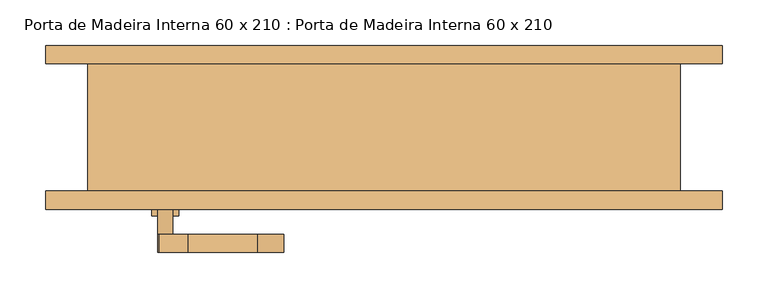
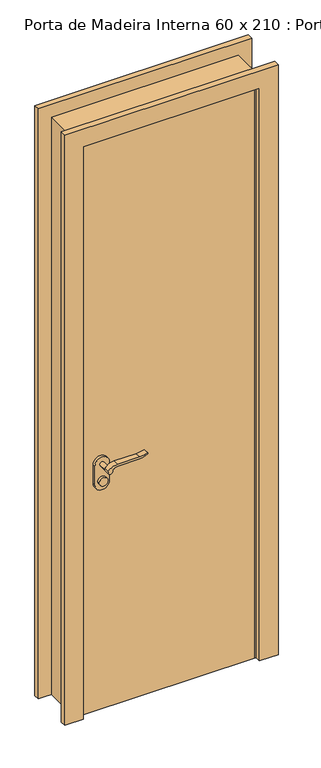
"""IFC4 building model written with IfcOpenShell, lengths in millimetres: door geometry, Porta de Madeira Interna 60 x 210 : Porta de Madeira Interna 60 x 210."""

import ifcopenshell
import ifcopenshell.guid

model = None  # the IFC model being written
_history = None  # IfcOwnerHistory: only IFC2X3 demands one
_inside = {}  # id of a spatial element -> (the spatial element, [elements in it])
_under = {}  # id of a project, library or spatial element -> (it, [spatial elements below it])
_declared = {}  # id of a project -> (the project, [libraries it declares])
_typed = {}  # id of a type object -> (the type object, [elements of that type])
_made_of = {}  # id of a material, layer set ... -> (it, [elements and type objects made of it])


def new_model(schema):
    """Start an empty IFC model of exactly this schema.

    Asked for "IFC4X3", IfcOpenShell would pick the latest addendum, in which some entities
    have other attributes; the version numbers below select the first issue.
    IFC2X3 requires an IfcOwnerHistory on every rooted entity: one is made here for all.
    """
    global model, _history
    if schema == "IFC4X3":
        model = ifcopenshell.file(schema_version=(4, 3, 0, 0))
    else:
        model = ifcopenshell.file(schema=schema)
    _inside.clear()
    _under.clear()
    _declared.clear()
    _typed.clear()
    _made_of.clear()
    _history = None
    if model.schema == "IFC2X3":
        org = make("IfcOrganization", Name="unknown")
        user = make(
            "IfcPersonAndOrganization",
            ThePerson=make("IfcPerson", FamilyName="unknown"),
            TheOrganization=org,
        )
        app = make(
            "IfcApplication",
            ApplicationDeveloper=org,
            Version="unknown",
            ApplicationFullName="unknown",
            ApplicationIdentifier="unknown",
        )
        _history = make(
            "IfcOwnerHistory",
            OwningUser=user,
            OwningApplication=app,
            ChangeAction="ADDED",
            CreationDate=0,
        )
    return model


def make(cls, **values):
    """One entity of the class cls with the attributes given. An attribute that is None is left unset."""
    return model.create_entity(
        cls, **{name: value for name, value in values.items() if value is not None}
    )


def rooted(cls, **values):
    """An entity with a GlobalId (a new one), such as an element, a storey or a relation."""
    return make(cls, GlobalId=ifcopenshell.guid.new(), OwnerHistory=_history, **values)


def si_unit(unit_type, name, prefix=None):
    """IfcSIUnit, for example si_unit("LENGTHUNIT", "METRE", prefix="MILLI")."""
    return make("IfcSIUnit", UnitType=unit_type, Prefix=prefix, Name=name)


def assignment(units):
    """IfcUnitAssignment: the units of a project."""
    return None if units is None else make("IfcUnitAssignment", Units=units)


def point(xyz):
    """IfcCartesianPoint."""
    return None if xyz is None else make("IfcCartesianPoint", Coordinates=xyz)


def direction(xyz):
    """IfcDirection."""
    return None if xyz is None else make("IfcDirection", DirectionRatios=xyz)


def frame(location, z_axis=None, x_axis=None):
    """IfcAxis2Placement3D, a coordinate frame: its origin and axes. An axis left out is left unset."""
    return make(
        "IfcAxis2Placement3D",
        Location=point(location),
        Axis=direction(z_axis),
        RefDirection=direction(x_axis),
    )


def frame_2d(location, x_axis=None):
    """IfcAxis2Placement2D, a coordinate frame in the plane: its origin and x axis."""
    return make(
        "IfcAxis2Placement2D", Location=point(location), RefDirection=direction(x_axis)
    )


def origin():
    """The frame at (0, 0, 0) with its axes left unset."""
    return frame((0.0, 0.0, 0.0))


def origin_with_axes():
    """The frame at (0, 0, 0) with the z axis (0, 0, 1) and the x axis (1, 0, 0) written out."""
    return frame((0.0, 0.0, 0.0), z_axis=(0.0, 0.0, 1.0), x_axis=(1.0, 0.0, 0.0))


def place(relative_to, where):
    """IfcLocalPlacement: puts the frame where relative to a parent placement (None: the world)."""
    return make(
        "IfcLocalPlacement", PlacementRelTo=relative_to, RelativePlacement=where
    )


def context(
    kind, dimensions, precision=None, world=None, true_north=None, identifier=None
):
    """IfcGeometricRepresentationContext, for example the 3D "Model" context."""
    return make(
        "IfcGeometricRepresentationContext",
        ContextIdentifier=identifier,
        ContextType=kind,
        CoordinateSpaceDimension=dimensions,
        Precision=precision,
        WorldCoordinateSystem=world,
        TrueNorth=true_north,
    )


def project(units=None, contexts=None):
    """IfcProject with its units and contexts."""
    return rooted(
        "IfcProject",
        Name="project",
        RepresentationContexts=contexts,
        UnitsInContext=assignment(units),
    )


def spatial(cls, under=None, at=None, **own):
    """A site, building, storey or space (cls), placed at a placement, below another one or the project."""
    s = rooted(cls, ObjectPlacement=at, **own)
    if under is not None:
        _under.setdefault(under.id(), (under, []))[1].append(s)
    return s


def polyline(points):
    """IfcPolyline through the points."""
    return make("IfcPolyline", Points=[point(p) for p in points])


def circle_curve(where, radius):
    """IfcCircle in the frame where."""
    return make("IfcCircle", Position=where, Radius=radius)


def trimmed(basis, trim1, trim2, sense, master):
    """IfcTrimmedCurve: the piece of a basis curve between two trims."""
    return make(
        "IfcTrimmedCurve",
        BasisCurve=basis,
        Trim1=trim1,
        Trim2=trim2,
        SenseAgreement=sense,
        MasterRepresentation=master,
    )


def segment(curve, same_sense, transition):
    """IfcCompositeCurveSegment."""
    return make(
        "IfcCompositeCurveSegment",
        Transition=transition,
        SameSense=same_sense,
        ParentCurve=curve,
    )


def composite_curve(segments, self_intersect=None):
    """IfcCompositeCurve: segments joined end to end."""
    return make("IfcCompositeCurve", Segments=segments, SelfIntersect=self_intersect)


def outline(outer, holes=None, kind="AREA"):
    """IfcArbitraryClosedProfileDef: a profile drawn as a closed curve; with holes, ...WithVoids."""
    if holes is None:
        return make("IfcArbitraryClosedProfileDef", ProfileType=kind, OuterCurve=outer)
    return make(
        "IfcArbitraryProfileDefWithVoids",
        ProfileType=kind,
        OuterCurve=outer,
        InnerCurves=holes,
    )


def extrude(swept, where, along, depth):
    """IfcExtrudedAreaSolid: the profile swept, set in the frame where, extruded along a direction by depth."""
    return make(
        "IfcExtrudedAreaSolid",
        SweptArea=swept,
        Position=where,
        ExtrudedDirection=direction(along),
        Depth=depth,
    )


def faces_of(points, faces, orient=None, outer=None):
    """IfcFace entities. A face is a list of loops; a loop is a list of indices into points, from 0.

    orient and outer hold one flag for each loop. By default every Orientation is true, the
    first loop of a face is its IfcFaceOuterBound and the others are IfcFaceBound.
    """
    made = []
    for i, loops in enumerate(faces):
        bounds = []
        for j, loop in enumerate(loops):
            is_outer = j == 0 if outer is None else outer[i][j]
            bounds.append(
                make(
                    "IfcFaceOuterBound" if is_outer else "IfcFaceBound",
                    Bound=make("IfcPolyLoop", Polygon=[points[k] for k in loop]),
                    Orientation=True if orient is None else orient[i][j],
                )
            )
        made.append(make("IfcFace", Bounds=bounds))
    return made


def faceted_brep(points, faces, orient=None, outer=None, voids=None):
    """IfcFacetedBrep: a solid bounded by flat faces; with voids (closed shells), ...WithVoids."""
    shared = [point(p) for p in points]
    hull = make("IfcClosedShell", CfsFaces=faces_of(shared, faces, orient, outer))
    if voids is None:
        return make("IfcFacetedBrep", Outer=hull)
    return make(
        "IfcFacetedBrepWithVoids",
        Outer=hull,
        Voids=[
            make(cls, CfsFaces=faces_of(shared, fs, o, b)) for cls, fs, o, b in voids
        ],
    )


def shape(context_of_items, identifier, shape_type, items):
    """IfcShapeRepresentation: the items that make up one representation, for example the "Body"."""
    return make(
        "IfcShapeRepresentation",
        ContextOfItems=context_of_items,
        RepresentationIdentifier=identifier,
        RepresentationType=shape_type,
        Items=items,
    )


def source(mapping_origin, context_of_items, identifier, shape_type, items):
    """IfcRepresentationMap: a shape defined once, which mapped items show again and again."""
    return make(
        "IfcRepresentationMap",
        MappingOrigin=mapping_origin,
        MappedRepresentation=shape(context_of_items, identifier, shape_type, items),
    )


def transform(
    local_origin,
    x_axis=None,
    y_axis=None,
    z_axis=None,
    scale=None,
    scale2=None,
    scale3=None,
    uniform=True,
):
    """IfcCartesianTransformationOperator3D, or its non-uniform kind. x_axis, y_axis, z_axis: its Axis1, 2, 3."""
    if uniform:
        return make(
            "IfcCartesianTransformationOperator3D",
            Axis1=direction(x_axis),
            Axis2=direction(y_axis),
            LocalOrigin=point(local_origin),
            Scale=scale,
            Axis3=direction(z_axis),
        )
    return make(
        "IfcCartesianTransformationOperator3DnonUniform",
        Axis1=direction(x_axis),
        Axis2=direction(y_axis),
        LocalOrigin=point(local_origin),
        Scale=scale,
        Axis3=direction(z_axis),
        Scale2=scale2,
        Scale3=scale3,
    )


def mapped(mapping_source, mapping_target):
    """IfcMappedItem: shows the shape of a source again, moved by a transform."""
    return make(
        "IfcMappedItem", MappingSource=mapping_source, MappingTarget=mapping_target
    )


def made_of(thing, what):
    """Note that an element or type object is made of a material, layer set ...; save() writes the relation."""
    if what is not None:
        _made_of.setdefault(what.id(), (what, []))[1].append(thing)
    return thing


def element(
    cls,
    number,
    at=None,
    inside=None,
    cuts=None,
    type_object=None,
    material=None,
    context=None,
    identifier="Body",
    shape_type=None,
    held_by="IfcProductDefinitionShape",
    body=None,
    shapes=None,
    **own,
):
    """One element of the class cls, such as IfcWall. Its Tag is "e" and its number.

    at: its placement. inside: the storey or other place that contains it. cuts: it is an
    opening in that element (IfcRelVoidsElement). A single representation is given by context,
    identifier, shape_type and body (its items); several are given by shapes. held_by: the class
    of the entity that holds the representations. save() writes the other relations.
    """
    e = rooted(cls, Tag="e%d" % number, ObjectPlacement=at, **own)
    if body is not None:
        shapes = [shape(context, identifier, shape_type, body)]
    if shapes is not None:
        e.Representation = make(held_by, Representations=shapes)
    if inside is not None:
        _inside.setdefault(inside.id(), (inside, []))[1].append(e)
    if cuts is not None:
        rooted(
            "IfcRelVoidsElement", RelatingBuildingElement=cuts, RelatedOpeningElement=e
        )
    if type_object is not None:
        _typed.setdefault(type_object.id(), (type_object, []))[1].append(e)
    return made_of(e, material)


def aggregate(whole, parts):
    """IfcRelAggregates: a whole, such as a stair, and the parts it consists of."""
    return rooted("IfcRelAggregates", RelatingObject=whole, RelatedObjects=parts)


def save(model, path):
    """Write the relations noted so far, then the file.

    IfcRelAggregates (storeys below a building ...), IfcRelContainedInSpatialStructure (elements
    in a storey), IfcRelDefinesByType, IfcRelAssociatesMaterial and IfcRelDeclares: one each for
    every whole, place, type object, material and project.
    """
    for whole, parts in _under.values():
        aggregate(whole, parts)
    for where, things in _inside.values():
        rooted(
            "IfcRelContainedInSpatialStructure",
            RelatedElements=things,
            RelatingStructure=where,
        )
    for kind, things in _typed.values():
        rooted("IfcRelDefinesByType", RelatedObjects=things, RelatingType=kind)
    for what, things in _made_of.values():
        rooted("IfcRelAssociatesMaterial", RelatedObjects=things, RelatingMaterial=what)
    for by, libraries in _declared.values():
        rooted("IfcRelDeclares", RelatingContext=by, RelatedDefinitions=libraries)
    model.write(path)


def porta_de_madeira_interna_60_x_210_porta_de_madeira_interna_53f76a03(model_context):
    return source(origin(), model_context, "Body", "SolidModel", [
        extrude(outline(composite_curve([segment(trimmed(circle_curve(frame_2d((854.4, -240.0)), 15.0), [point((854.4, -225.0))], [point((854.4, -255.0))], False, "CARTESIAN"), True, "CONTINUOUS"), segment(trimmed(circle_curve(frame_2d((854.4, -240.0)), 15.0), [point((854.4, -255.0))], [point((854.4, -225.0))], False, "CARTESIAN"), True, "CONTINUOUS")], self_intersect=False)), frame((0.0, -3.975, 0.0), z_axis=(0.0, 1.0, 0.0), x_axis=(0.0, 0.0, 1.0)), (0.0, 0.0, 1.0), 10.0),
        extrude(outline(composite_curve([segment(trimmed(circle_curve(frame_2d((854.4, -240.0)), 15.0), [point((854.4, -225.0))], [point((854.4, -255.0))], False, "CARTESIAN"), True, "CONTINUOUS"), segment(trimmed(circle_curve(frame_2d((854.4, -240.0)), 15.0), [point((854.4, -255.0))], [point((854.4, -225.0))], False, "CARTESIAN"), True, "CONTINUOUS")], self_intersect=False)), frame((0.0, -93.975, 0.0), z_axis=(0.0, 1.0, 0.0), x_axis=(0.0, 0.0, 1.0)), (0.0, 0.0, 1.0), 10.0),
        extrude(outline(composite_curve([segment(trimmed(circle_curve(frame_2d((914.4, -240.0)), 8.0), [point((919.0523287, -246.5081363))], [point((914.4, -232.0))], False, "CARTESIAN"), True, "CONTINUOUS"), segment(trimmed(circle_curve(frame_2d((909.2738613, -214.6138099)), 18.1261387), [point((914.4, -232.0))], [point((927.4, -214.6138099))], True, "CARTESIAN"), True, "CONTINUOUS"), segment(polyline([(927.4, -214.6138099), (927.4, -138.3564091)]), True, "CONTINUOUS"), segment(trimmed(circle_curve(frame_2d((986.6709207, -141.9396612)), 59.3791355), [point((927.4, -138.3564091))], [point((936.6135558, -110.0))], False, "CARTESIAN"), True, "CONTINUOUS"), segment(polyline([(936.6135558, -110.0), (939.4, -110.0)]), True, "CONTINUOUS"), segment(trimmed(circle_curve(frame_2d((1017.6850638, -138.4227909)), 83.2850902), [point((939.4, -110.0))], [point((934.4, -138.3564091))], True, "CARTESIAN"), True, "CONTINUOUS"), segment(polyline([(934.4, -138.3564091), (934.4, -214.6325667)]), True, "CONTINUOUS"), segment(trimmed(circle_curve(frame_2d((897.1555521, -216.3324871)), 37.2832219), [point((934.4, -214.6325667))], [point((919.0523287, -246.5081363))], False, "CARTESIAN"), True, "CONTINUOUS")], self_intersect=False)), frame((0.0, 26.025, 0.0), z_axis=(0.0, 1.0, 0.0), x_axis=(0.0, 0.0, 1.0)), (0.0, 0.0, 1.0), 20.0),
        extrude(outline(composite_curve([segment(trimmed(circle_curve(frame_2d((909.2738682, -214.6138122)), 18.1261318), [point((914.3999903, -232.0))], [point((927.4, -214.6138122))], True, "CARTESIAN"), True, "CONTINUOUS"), segment(polyline([(927.4, -214.6138122), (927.4, -138.3564091)]), True, "CONTINUOUS"), segment(trimmed(circle_curve(frame_2d((986.6709207, -141.9396612)), 59.3791355), [point((927.4, -138.3564091))], [point((936.6135558, -110.0))], False, "CARTESIAN"), True, "CONTINUOUS"), segment(polyline([(936.6135558, -110.0), (939.4, -110.0)]), True, "CONTINUOUS"), segment(trimmed(circle_curve(frame_2d((1017.6850638, -138.4227909)), 83.2850902), [point((939.4, -110.0))], [point((934.4, -138.3564091))], True, "CARTESIAN"), True, "CONTINUOUS"), segment(polyline([(934.4, -138.3564091), (934.4, -214.6325667)]), True, "CONTINUOUS"), segment(trimmed(circle_curve(frame_2d((897.1555521, -216.3324871)), 37.2832219), [point((934.4, -214.6325667))], [point((919.0523287, -246.5081363))], False, "CARTESIAN"), True, "CONTINUOUS"), segment(trimmed(circle_curve(frame_2d((914.4, -240.0)), 8.0), [point((919.0523287, -246.5081363))], [point((914.3999903, -232.0))], False, "CARTESIAN"), True, "CONTINUOUS")], self_intersect=False)), frame((0.0, -133.975, 0.0), z_axis=(0.0, 1.0, 0.0), x_axis=(0.0, 0.0, 1.0)), (0.0, 0.0, 1.0), 20.0),
        extrude(outline(composite_curve([segment(trimmed(circle_curve(frame_2d((914.4, -240.0)), 8.0), [point((914.4, -232.0))], [point((914.4, -248.0))], False, "CARTESIAN"), True, "CONTINUOUS"), segment(trimmed(circle_curve(frame_2d((914.4, -240.0)), 8.0), [point((914.4, -248.0))], [point((914.4, -232.0))], False, "CARTESIAN"), True, "CONTINUOUS")], self_intersect=False)), frame((0.0, -3.975, 0.0), z_axis=(0.0, 1.0, 0.0), x_axis=(0.0, 0.0, 1.0)), (0.0, 0.0, 1.0), 30.0),
        extrude(outline(composite_curve([segment(trimmed(circle_curve(frame_2d((914.4, -240.0)), 8.0), [point((914.4, -232.0))], [point((914.4, -248.0))], False, "CARTESIAN"), True, "CONTINUOUS"), segment(trimmed(circle_curve(frame_2d((914.4, -240.0)), 8.0), [point((914.4, -248.0))], [point((914.4, -232.0))], False, "CARTESIAN"), True, "CONTINUOUS")], self_intersect=False)), frame((0.0, -113.975, 0.0), z_axis=(0.0, 1.0, 0.0), x_axis=(0.0, 0.0, 1.0)), (0.0, 0.0, 1.0), 30.0),
        extrude(outline(composite_curve([segment(trimmed(circle_curve(frame_2d((844.4, -240.0)), 25.0), [point((844.4, -265.0))], [point((844.4, -215.0))], False, "CARTESIAN"), True, "CONTINUOUS"), segment(polyline([(844.4, -215.0), (914.4, -215.0)]), True, "CONTINUOUS"), segment(trimmed(circle_curve(frame_2d((914.4, -240.0)), 25.0), [point((914.4, -215.0))], [point((914.4, -265.0))], False, "CARTESIAN"), True, "CONTINUOUS"), segment(polyline([(914.4, -265.0), (844.4, -265.0)]), True, "CONTINUOUS")], self_intersect=False)), frame((0.0, -13.975, 0.0), z_axis=(0.0, 1.0, 0.0), x_axis=(0.0, 0.0, 1.0)), (0.0, 0.0, 1.0), 10.0),
        extrude(outline(composite_curve([segment(trimmed(circle_curve(frame_2d((844.4, -240.0)), 25.0), [point((844.4, -265.0))], [point((844.4, -215.0))], False, "CARTESIAN"), True, "CONTINUOUS"), segment(polyline([(844.4, -215.0), (914.4, -215.0)]), True, "CONTINUOUS"), segment(trimmed(circle_curve(frame_2d((914.4, -240.0)), 25.0), [point((914.4, -215.0))], [point((914.4, -265.0))], False, "CARTESIAN"), True, "CONTINUOUS"), segment(polyline([(914.4, -265.0), (844.4, -265.0)]), True, "CONTINUOUS")], self_intersect=False)), frame((0.0, -83.975, 0.0), z_axis=(0.0, 1.0, 0.0), x_axis=(0.0, 0.0, 1.0)), (0.0, 0.0, 1.0), 10.0),
        extrude(outline(polyline([(300.0, -26.825), (300.0, -66.825), (-300.0, -66.825), (-300.0, -26.825), (300.0, -26.825)])), origin_with_axes(), (0.0, 0.0, 1.0), 2100.0),
        faceted_brep([(325.0, -66.825, 0.0), (300.0, -66.825, 0.0), (300.0, -26.825, 0.0), (287.3, -26.825, 0.0), (287.3, 8.1, 0.0), (300.0, 8.1, 0.0), (300.0, 73.175, 0.0), (325.0, 73.175, 0.0), (325.0, 73.175, 2125.0), (325.0, -66.825, 2125.0), (300.0, 73.175, 2100.0), (-300.0, 73.175, 2100.0), (-300.0, 73.175, 0.0), (-325.0, 73.175, 0.0), (-325.0, 73.175, 2125.0), (300.0, 8.1, 2100.0), (287.3, 8.1, 2087.3), (-287.3, 8.1, 2087.3), (-287.3, 8.1, 0.0), (-300.0, 8.1, 0.0), (-300.0, 8.1, 2100.0), (287.3, -26.825, 2087.3), (300.0, -26.825, 2100.0), (-300.0, -26.825, 2100.0), (-300.0, -26.825, 0.0), (-287.3, -26.825, 0.0), (-287.3, -26.825, 2087.3), (300.0, -66.825, 2100.0), (-325.0, -66.825, 2125.0), (-325.0, -66.825, 0.0), (-300.0, -66.825, 0.0), (-300.0, -66.825, 2100.0)], [[[0, 1, 2, 3, 4, 5, 6, 7]], [[7, 8, 9, 0]], [[6, 10, 11, 12, 13, 14, 8, 7]], [[5, 15, 10, 6]], [[4, 16, 17, 18, 19, 20, 15, 5]], [[3, 21, 16, 4]], [[2, 22, 23, 24, 25, 26, 21, 3]], [[1, 27, 22, 2]], [[0, 9, 28, 29, 30, 31, 27, 1]], [[8, 14, 28, 9]], [[15, 20, 11, 10]], [[21, 26, 17, 16]], [[27, 31, 23, 22]], [[29, 13, 12, 19, 18, 25, 24, 30]], [[14, 13, 29, 28]], [[20, 19, 12, 11]], [[26, 25, 18, 17]], [[31, 30, 24, 23]]]),
        extrude(outline(polyline([(0.0, 371.35), (2171.35, 371.35), (2171.35, -371.35), (0.0, -371.35), (0.0, -306.35), (2106.35, -306.35), (2106.35, 306.35), (0.0, 306.35), (0.0, 371.35)])), frame((0.0, 73.175, 0.0), z_axis=(0.0, 1.0, 0.0), x_axis=(0.0, 0.0, 1.0)), (0.0, 0.0, 1.0), 20.0),
        extrude(outline(polyline([(0.0, 371.35), (2171.35, 371.35), (2171.35, -371.35), (0.0, -371.35), (0.0, -306.35), (2106.35, -306.35), (2106.35, 306.35), (0.0, 306.35), (0.0, 371.35)])), frame((0.0, -86.825, 0.0), z_axis=(0.0, 1.0, 0.0), x_axis=(0.0, 0.0, 1.0)), (0.0, 0.0, 1.0), 20.0),
    ])


if __name__ == "__main__":
    model = new_model("IFC4")
    model_context = context("Model", 3, world=origin())
    ifc_project = project(units=[si_unit("LENGTHUNIT", "METRE", prefix="MILLI")], contexts=[model_context])
    site = spatial("IfcSite", under=ifc_project)
    building = spatial("IfcBuilding", under=site)
    placement = place(None, origin())
    porta_de_madeira_interna_60_x_210_porta_de_madeira_interna_shape = porta_de_madeira_interna_60_x_210_porta_de_madeira_interna_53f76a03(model_context)
    element("IfcDoor", 1, ObjectType="Porta de Madeira Interna 60 x 210 : Porta de Madeira Interna 60 x 210", at=placement, inside=building, context=model_context, shape_type="MappedRepresentation", body=[
        mapped(porta_de_madeira_interna_60_x_210_porta_de_madeira_interna_shape, transform((0.0, 0.0, 0.0), x_axis=(1.0, 0.0, 0.0), y_axis=(0.0, 1.0, 0.0), z_axis=(0.0, 0.0, 1.0))),
    ])
    save(model, "model.ifc")
